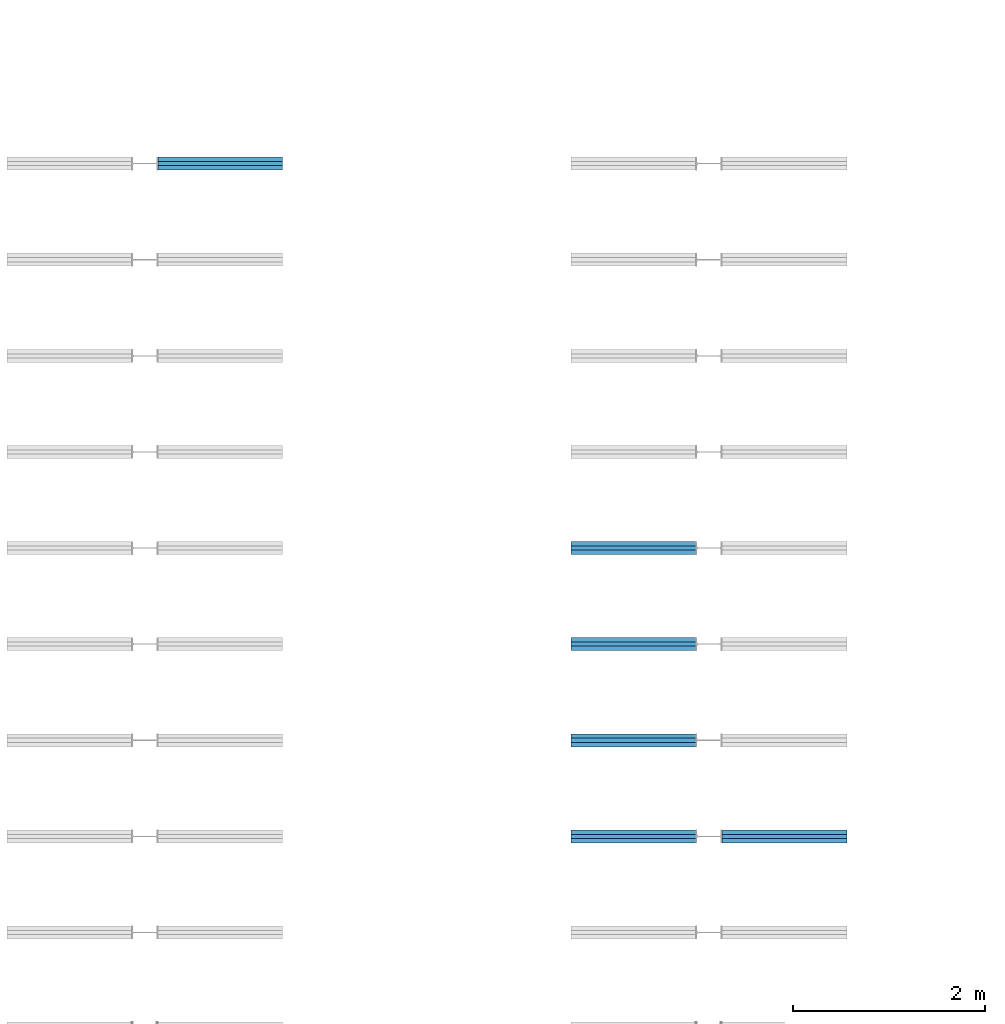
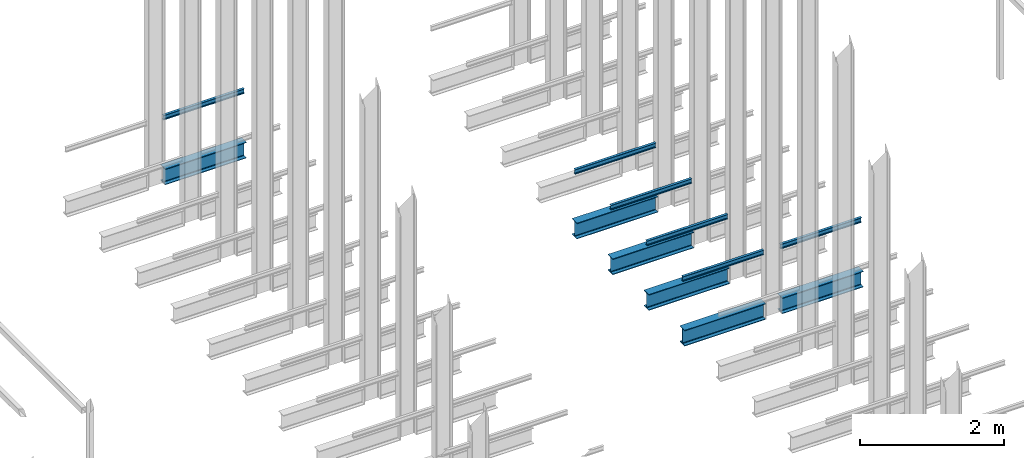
# One storey, part 183 of 302: 12 beams.
"""IFC2X3 building model written with IfcOpenShell, lengths in metres."""

from ifc_helpers import new_model, entity, si_unit, converted_unit, derived_unit, direction, frame, frame_2d, origin, place, context, subcontext, project, spatial, polyline, circle_curve, parameter, trimmed, segment, composite_curve, i_section, outline, extrude, material, type_object, element, save


model = new_model("IFC2X3")

# Units and contexts
model_context = context("Model", 3, precision=1e-05, world=origin(), true_north=direction((6.12303176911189e-17, 1.0)))
body_context = subcontext(model_context, "Body", "Model", "MODEL_VIEW")
ifc_project = project(units=[si_unit("LENGTHUNIT", "METRE"), si_unit("AREAUNIT", "SQUARE_METRE"), si_unit("VOLUMEUNIT", "CUBIC_METRE"), converted_unit("PLANEANGLEUNIT", "DEGREE", entity("IfcRatioMeasure", 0.0174532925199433), si_unit("PLANEANGLEUNIT", "RADIAN"), dimensions=[0, 0, 0, 0, 0, 0, 0]), si_unit("MASSUNIT", "GRAM", prefix="KILO"), derived_unit("MASSDENSITYUNIT", [(si_unit("MASSUNIT", "GRAM", prefix="KILO"), 1), (si_unit("LENGTHUNIT", "METRE"), -3)]), derived_unit("MOMENTOFINERTIAUNIT", [(si_unit("LENGTHUNIT", "METRE"), 4)]), si_unit("TIMEUNIT", "SECOND"), si_unit("FREQUENCYUNIT", "HERTZ"), si_unit("THERMODYNAMICTEMPERATUREUNIT", "DEGREE_CELSIUS"), derived_unit("THERMALTRANSMITTANCEUNIT", [(si_unit("MASSUNIT", "GRAM", prefix="KILO"), 1), (si_unit("THERMODYNAMICTEMPERATUREUNIT", "KELVIN"), -1), (si_unit("TIMEUNIT", "SECOND"), -3)]), derived_unit("VOLUMETRICFLOWRATEUNIT", [(si_unit("LENGTHUNIT", "METRE"), 3), (si_unit("TIMEUNIT", "SECOND"), -1)]), si_unit("ELECTRICCURRENTUNIT", "AMPERE"), si_unit("ELECTRICVOLTAGEUNIT", "VOLT"), si_unit("POWERUNIT", "WATT"), si_unit("FORCEUNIT", "NEWTON", prefix="KILO"), si_unit("ILLUMINANCEUNIT", "LUX"), si_unit("LUMINOUSFLUXUNIT", "LUMEN"), si_unit("LUMINOUSINTENSITYUNIT", "CANDELA"), derived_unit("USERDEFINED", [(si_unit("MASSUNIT", "GRAM", prefix="KILO"), -1), (si_unit("LENGTHUNIT", "METRE"), -2), (si_unit("TIMEUNIT", "SECOND"), 3), (si_unit("LUMINOUSFLUXUNIT", "LUMEN"), 1)]), derived_unit("LINEARVELOCITYUNIT", [(si_unit("LENGTHUNIT", "METRE"), 1), (si_unit("TIMEUNIT", "SECOND"), -1)]), si_unit("PRESSUREUNIT", "PASCAL"), derived_unit("USERDEFINED", [(si_unit("LENGTHUNIT", "METRE"), -2), (si_unit("MASSUNIT", "GRAM", prefix="KILO"), 1), (si_unit("TIMEUNIT", "SECOND"), -2)]), derived_unit("LINEARFORCEUNIT", [(si_unit("MASSUNIT", "GRAM", prefix="KILO"), 1), (si_unit("LENGTHUNIT", "METRE"), 1), (si_unit("TIMEUNIT", "SECOND"), -2), (si_unit("LENGTHUNIT", "METRE"), -1)]), derived_unit("PLANARFORCEUNIT", [(si_unit("MASSUNIT", "GRAM", prefix="KILO"), 1), (si_unit("LENGTHUNIT", "METRE"), 1), (si_unit("TIMEUNIT", "SECOND"), -2), (si_unit("LENGTHUNIT", "METRE"), -2)])], contexts=[model_context])

# Site, building, storey
site_placement = place(None, origin())
site = spatial("IfcSite", under=ifc_project, at=site_placement, Name="Default", CompositionType="ELEMENT")
building_placement = place(site_placement, origin())
building = spatial("IfcBuilding", under=site, at=building_placement, CompositionType="ELEMENT")
storey_placement = place(building_placement, frame((0.0, 0.0, -1.3)))
storey = spatial("IfcBuildingStorey", under=building, at=storey_placement, Name="00_EG", CompositionType="ELEMENT", Elevation=-1.3)

# Beams
ifc_material = material(Name="Metall - Baustahl S235")
beam_type_1 = type_object("IfcBeamType", Name="IPN Träger:IPN 80", PredefinedType="NOTDEFINED")
beam_1_placement = place(storey_placement, frame((-170.510111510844, 54.9945889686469, 2.42)))
element("IfcBeam", 1, at=beam_1_placement, inside=storey, type_object=beam_type_1, material=ifc_material, Name="IPN Träger:IPN 80", ObjectType="IPN Träger:IPN 80", context=body_context, shape_type="SweptSolid", body=[
    extrude(outline(composite_curve([segment(polyline([(0.0375704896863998, -0.0210000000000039), (0.0399999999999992, -0.0210000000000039)]), True, "CONTINUOUS"), segment(polyline([(0.0399999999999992, -0.0210000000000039), (0.0399999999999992, 0.0209999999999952)]), True, "CONTINUOUS"), segment(polyline([(0.039999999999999, 0.0209999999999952), (0.037570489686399, 0.0209999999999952)]), True, "CONTINUOUS"), segment(trimmed(circle_curve(frame_2d((0.0375704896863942, 0.0187000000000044), x_axis=(0.0, 1.0)), 0.0022999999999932), [parameter(0.0)], [parameter(82.0300000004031)], True, "PARAMETER"), True, "CONTINUOUS"), segment(polyline([(0.0352927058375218, 0.019018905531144), (0.0333732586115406, 0.00530924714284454)]), True, "CONTINUOUS"), segment(trimmed(circle_curve(frame_2d((0.0295109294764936, 0.00584999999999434), x_axis=(0.990340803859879, -0.138654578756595)), 0.00389999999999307), [parameter(277.969999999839)], [parameter(0.0)], True, "PARAMETER"), False, "CONTINUOUS"), segment(polyline([(0.0295109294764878, 0.00194999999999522), (-0.0295109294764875, 0.00194999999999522)]), True, "CONTINUOUS"), segment(trimmed(circle_curve(frame_2d((-0.0295109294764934, 0.00584999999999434), x_axis=(0.0, -1.0)), 0.00389999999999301), [parameter(277.969999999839)], [parameter(0.0)], True, "PARAMETER"), False, "CONTINUOUS"), segment(polyline([(-0.0333732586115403, 0.00530924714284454), (-0.0352927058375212, 0.019018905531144)]), True, "CONTINUOUS"), segment(trimmed(circle_curve(frame_2d((-0.0375704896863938, 0.0187000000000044), x_axis=(0.990340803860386, 0.138654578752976)), 0.00229999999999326), [parameter(0.0)], [parameter(82.0300000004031)], True, "PARAMETER"), True, "CONTINUOUS"), segment(polyline([(-0.0375704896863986, 0.0209999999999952), (-0.0400000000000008, 0.0209999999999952)]), True, "CONTINUOUS"), segment(polyline([(-0.0400000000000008, 0.0209999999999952), (-0.0400000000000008, -0.0210000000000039)]), True, "CONTINUOUS"), segment(polyline([(-0.0400000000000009, -0.0210000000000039), (-0.037570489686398, -0.0210000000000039)]), True, "CONTINUOUS"), segment(trimmed(circle_curve(frame_2d((-0.0375704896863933, -0.0187000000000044), x_axis=(0.0, -1.0)), 0.00229999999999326), [parameter(0.0)], [parameter(82.0300000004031)], True, "PARAMETER"), True, "CONTINUOUS"), segment(polyline([(-0.0352927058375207, -0.019018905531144), (-0.0333732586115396, -0.00530924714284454)]), True, "CONTINUOUS"), segment(trimmed(circle_curve(frame_2d((-0.0295109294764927, -0.00584999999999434), x_axis=(-0.990340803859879, 0.138654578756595)), 0.00389999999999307), [parameter(277.969999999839)], [parameter(0.0)], True, "PARAMETER"), False, "CONTINUOUS"), segment(polyline([(-0.0295109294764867, -0.00195000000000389), (0.0295109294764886, -0.00195000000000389)]), True, "CONTINUOUS"), segment(trimmed(circle_curve(frame_2d((0.0295109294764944, -0.00584999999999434), x_axis=(0.0, 1.0)), 0.00389999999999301), [parameter(277.969999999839)], [parameter(0.0)], True, "PARAMETER"), False, "CONTINUOUS"), segment(polyline([(0.0333732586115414, -0.00530924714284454), (0.0352927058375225, -0.019018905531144)]), True, "CONTINUOUS"), segment(trimmed(circle_curve(frame_2d((0.0375704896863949, -0.0187000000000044), x_axis=(-0.990340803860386, -0.138654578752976)), 0.00229999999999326), [parameter(0.0)], [parameter(82.0300000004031)], True, "PARAMETER"), True, "CONTINUOUS")], self_intersect=False)), frame((0.000100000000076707, 0.0209999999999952, -0.0400000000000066), z_axis=(1.0, 0.0, 0.0), x_axis=(0.0, 0.0, -1.0)), (0.0, 0.0, 1.0), 1.29990000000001),
])
beam_2_placement = place(storey_placement, frame((-164.910111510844, 51.0365889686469, 2.42), z_axis=(0.0, 0.0, 1.0), x_axis=(-1.0, 0.0, 0.0)))
element("IfcBeam", 2, at=beam_2_placement, inside=storey, type_object=beam_type_1, material=ifc_material, Name="IPN Träger:IPN 80", ObjectType="IPN Träger:IPN 80", context=body_context, shape_type="SweptSolid", body=[
    extrude(outline(composite_curve([segment(polyline([(0.0375704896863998, -0.0209999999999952), (0.0399999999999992, -0.0209999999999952)]), True, "CONTINUOUS"), segment(polyline([(0.0399999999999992, -0.0209999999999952), (0.0399999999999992, 0.0210000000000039)]), True, "CONTINUOUS"), segment(polyline([(0.039999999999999, 0.0210000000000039), (0.037570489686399, 0.0210000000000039)]), True, "CONTINUOUS"), segment(trimmed(circle_curve(frame_2d((0.0375704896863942, 0.0187000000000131), x_axis=(0.0, 1.0)), 0.0022999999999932), [parameter(0.0)], [parameter(82.0300000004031)], True, "PARAMETER"), True, "CONTINUOUS"), segment(polyline([(0.0352927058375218, 0.0190189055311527), (0.0333732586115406, 0.0053092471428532)]), True, "CONTINUOUS"), segment(trimmed(circle_curve(frame_2d((0.0295109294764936, 0.005850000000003), x_axis=(0.990340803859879, -0.138654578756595)), 0.00389999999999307), [parameter(277.969999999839)], [parameter(0.0)], True, "PARAMETER"), False, "CONTINUOUS"), segment(polyline([(0.0295109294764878, 0.00195000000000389), (-0.0295109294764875, 0.00195000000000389)]), True, "CONTINUOUS"), segment(trimmed(circle_curve(frame_2d((-0.0295109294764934, 0.005850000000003), x_axis=(0.0, -1.0)), 0.00389999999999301), [parameter(277.969999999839)], [parameter(0.0)], True, "PARAMETER"), False, "CONTINUOUS"), segment(polyline([(-0.0333732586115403, 0.0053092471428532), (-0.0352927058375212, 0.0190189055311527)]), True, "CONTINUOUS"), segment(trimmed(circle_curve(frame_2d((-0.0375704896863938, 0.0187000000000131), x_axis=(0.990340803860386, 0.138654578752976)), 0.00229999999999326), [parameter(0.0)], [parameter(82.0300000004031)], True, "PARAMETER"), True, "CONTINUOUS"), segment(polyline([(-0.0375704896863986, 0.0210000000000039), (-0.0400000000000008, 0.0210000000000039)]), True, "CONTINUOUS"), segment(polyline([(-0.0400000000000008, 0.0210000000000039), (-0.0400000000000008, -0.0209999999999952)]), True, "CONTINUOUS"), segment(polyline([(-0.0400000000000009, -0.0209999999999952), (-0.037570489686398, -0.0209999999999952)]), True, "CONTINUOUS"), segment(trimmed(circle_curve(frame_2d((-0.0375704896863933, -0.0186999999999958), x_axis=(0.0, -1.0)), 0.00229999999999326), [parameter(0.0)], [parameter(82.0300000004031)], True, "PARAMETER"), True, "CONTINUOUS"), segment(polyline([(-0.0352927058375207, -0.0190189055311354), (-0.0333732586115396, -0.00530924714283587)]), True, "CONTINUOUS"), segment(trimmed(circle_curve(frame_2d((-0.0295109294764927, -0.00584999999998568), x_axis=(-0.990340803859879, 0.138654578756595)), 0.00389999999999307), [parameter(277.969999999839)], [parameter(0.0)], True, "PARAMETER"), False, "CONTINUOUS"), segment(polyline([(-0.0295109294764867, -0.00194999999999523), (0.0295109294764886, -0.00194999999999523)]), True, "CONTINUOUS"), segment(trimmed(circle_curve(frame_2d((0.0295109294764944, -0.00584999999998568), x_axis=(0.0, 1.0)), 0.00389999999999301), [parameter(277.969999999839)], [parameter(0.0)], True, "PARAMETER"), False, "CONTINUOUS"), segment(polyline([(0.0333732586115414, -0.00530924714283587), (0.0352927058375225, -0.0190189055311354)]), True, "CONTINUOUS"), segment(trimmed(circle_curve(frame_2d((0.0375704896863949, -0.0186999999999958), x_axis=(-0.990340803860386, -0.138654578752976)), 0.00229999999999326), [parameter(0.0)], [parameter(82.0300000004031)], True, "PARAMETER"), True, "CONTINUOUS")], self_intersect=False)), frame((0.000100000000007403, 0.0209999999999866, -0.0400000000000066), z_axis=(1.0, 0.0, 0.0), x_axis=(0.0, 0.0, -1.0)), (0.0, 0.0, 1.0), 1.29990000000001),
])
beam_3_placement = place(storey_placement, frame((-164.910111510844, 50.0365889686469, 2.42), z_axis=(0.0, 0.0, 1.0), x_axis=(-1.0, 0.0, 0.0)))
element("IfcBeam", 3, at=beam_3_placement, inside=storey, type_object=beam_type_1, material=ifc_material, Name="IPN Träger:IPN 80", ObjectType="IPN Träger:IPN 80", context=body_context, shape_type="SweptSolid", body=[
    extrude(outline(composite_curve([segment(polyline([(0.0375704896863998, -0.0209999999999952), (0.0399999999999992, -0.0209999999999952)]), True, "CONTINUOUS"), segment(polyline([(0.0399999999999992, -0.0209999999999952), (0.0399999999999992, 0.0210000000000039)]), True, "CONTINUOUS"), segment(polyline([(0.039999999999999, 0.0210000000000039), (0.037570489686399, 0.0210000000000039)]), True, "CONTINUOUS"), segment(trimmed(circle_curve(frame_2d((0.0375704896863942, 0.0187000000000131), x_axis=(0.0, 1.0)), 0.0022999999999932), [parameter(0.0)], [parameter(82.0300000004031)], True, "PARAMETER"), True, "CONTINUOUS"), segment(polyline([(0.0352927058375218, 0.0190189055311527), (0.0333732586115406, 0.0053092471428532)]), True, "CONTINUOUS"), segment(trimmed(circle_curve(frame_2d((0.0295109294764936, 0.005850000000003), x_axis=(0.990340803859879, -0.138654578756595)), 0.00389999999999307), [parameter(277.969999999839)], [parameter(0.0)], True, "PARAMETER"), False, "CONTINUOUS"), segment(polyline([(0.0295109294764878, 0.00195000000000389), (-0.0295109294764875, 0.00195000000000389)]), True, "CONTINUOUS"), segment(trimmed(circle_curve(frame_2d((-0.0295109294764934, 0.005850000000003), x_axis=(0.0, -1.0)), 0.00389999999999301), [parameter(277.969999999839)], [parameter(0.0)], True, "PARAMETER"), False, "CONTINUOUS"), segment(polyline([(-0.0333732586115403, 0.0053092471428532), (-0.0352927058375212, 0.0190189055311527)]), True, "CONTINUOUS"), segment(trimmed(circle_curve(frame_2d((-0.0375704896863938, 0.0187000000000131), x_axis=(0.990340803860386, 0.138654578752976)), 0.00229999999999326), [parameter(0.0)], [parameter(82.0300000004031)], True, "PARAMETER"), True, "CONTINUOUS"), segment(polyline([(-0.0375704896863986, 0.0210000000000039), (-0.0400000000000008, 0.0210000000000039)]), True, "CONTINUOUS"), segment(polyline([(-0.0400000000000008, 0.0210000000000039), (-0.0400000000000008, -0.0209999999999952)]), True, "CONTINUOUS"), segment(polyline([(-0.0400000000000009, -0.0209999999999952), (-0.037570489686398, -0.0209999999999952)]), True, "CONTINUOUS"), segment(trimmed(circle_curve(frame_2d((-0.0375704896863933, -0.0186999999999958), x_axis=(0.0, -1.0)), 0.00229999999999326), [parameter(0.0)], [parameter(82.0300000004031)], True, "PARAMETER"), True, "CONTINUOUS"), segment(polyline([(-0.0352927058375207, -0.0190189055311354), (-0.0333732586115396, -0.00530924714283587)]), True, "CONTINUOUS"), segment(trimmed(circle_curve(frame_2d((-0.0295109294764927, -0.00584999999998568), x_axis=(-0.990340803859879, 0.138654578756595)), 0.00389999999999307), [parameter(277.969999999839)], [parameter(0.0)], True, "PARAMETER"), False, "CONTINUOUS"), segment(polyline([(-0.0295109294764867, -0.00194999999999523), (0.0295109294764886, -0.00194999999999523)]), True, "CONTINUOUS"), segment(trimmed(circle_curve(frame_2d((0.0295109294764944, -0.00584999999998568), x_axis=(0.0, 1.0)), 0.00389999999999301), [parameter(277.969999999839)], [parameter(0.0)], True, "PARAMETER"), False, "CONTINUOUS"), segment(polyline([(0.0333732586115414, -0.00530924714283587), (0.0352927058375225, -0.0190189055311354)]), True, "CONTINUOUS"), segment(trimmed(circle_curve(frame_2d((0.0375704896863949, -0.0186999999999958), x_axis=(-0.990340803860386, -0.138654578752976)), 0.00229999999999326), [parameter(0.0)], [parameter(82.0300000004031)], True, "PARAMETER"), True, "CONTINUOUS")], self_intersect=False)), frame((0.000100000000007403, 0.0209999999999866, -0.0400000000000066), z_axis=(1.0, 0.0, 0.0), x_axis=(0.0, 0.0, -1.0)), (0.0, 0.0, 1.0), 1.29990000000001),
])
beam_4_placement = place(storey_placement, frame((-164.910111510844, 49.0365889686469, 2.42), z_axis=(0.0, 0.0, 1.0), x_axis=(-1.0, 0.0, 0.0)))
element("IfcBeam", 4, at=beam_4_placement, inside=storey, type_object=beam_type_1, material=ifc_material, Name="IPN Träger:IPN 80", ObjectType="IPN Träger:IPN 80", context=body_context, shape_type="SweptSolid", body=[
    extrude(outline(composite_curve([segment(polyline([(0.0375704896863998, -0.0210000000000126), (0.0399999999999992, -0.0210000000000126)]), True, "CONTINUOUS"), segment(polyline([(0.0399999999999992, -0.0210000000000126), (0.0399999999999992, 0.0209999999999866)]), True, "CONTINUOUS"), segment(polyline([(0.039999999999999, 0.0209999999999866), (0.037570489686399, 0.0209999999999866)]), True, "CONTINUOUS"), segment(trimmed(circle_curve(frame_2d((0.0375704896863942, 0.0186999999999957), x_axis=(0.0, 1.0)), 0.0022999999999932), [parameter(0.0)], [parameter(82.0300000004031)], True, "PARAMETER"), True, "CONTINUOUS"), segment(polyline([(0.0352927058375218, 0.0190189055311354), (0.0333732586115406, 0.00530924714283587)]), True, "CONTINUOUS"), segment(trimmed(circle_curve(frame_2d((0.0295109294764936, 0.00584999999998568), x_axis=(0.990340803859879, -0.138654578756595)), 0.00389999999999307), [parameter(277.969999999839)], [parameter(0.0)], True, "PARAMETER"), False, "CONTINUOUS"), segment(polyline([(0.0295109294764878, 0.00194999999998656), (-0.0295109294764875, 0.00194999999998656)]), True, "CONTINUOUS"), segment(trimmed(circle_curve(frame_2d((-0.0295109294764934, 0.00584999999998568), x_axis=(0.0, -1.0)), 0.00389999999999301), [parameter(277.969999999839)], [parameter(0.0)], True, "PARAMETER"), False, "CONTINUOUS"), segment(polyline([(-0.0333732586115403, 0.00530924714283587), (-0.0352927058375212, 0.0190189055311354)]), True, "CONTINUOUS"), segment(trimmed(circle_curve(frame_2d((-0.0375704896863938, 0.0186999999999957), x_axis=(0.990340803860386, 0.138654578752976)), 0.00229999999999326), [parameter(0.0)], [parameter(82.0300000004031)], True, "PARAMETER"), True, "CONTINUOUS"), segment(polyline([(-0.0375704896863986, 0.0209999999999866), (-0.0400000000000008, 0.0209999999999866)]), True, "CONTINUOUS"), segment(polyline([(-0.0400000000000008, 0.0209999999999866), (-0.0400000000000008, -0.0210000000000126)]), True, "CONTINUOUS"), segment(polyline([(-0.0400000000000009, -0.0210000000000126), (-0.037570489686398, -0.0210000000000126)]), True, "CONTINUOUS"), segment(trimmed(circle_curve(frame_2d((-0.0375704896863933, -0.0187000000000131), x_axis=(0.0, -1.0)), 0.00229999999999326), [parameter(0.0)], [parameter(82.0300000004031)], True, "PARAMETER"), True, "CONTINUOUS"), segment(polyline([(-0.0352927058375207, -0.0190189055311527), (-0.0333732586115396, -0.0053092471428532)]), True, "CONTINUOUS"), segment(trimmed(circle_curve(frame_2d((-0.0295109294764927, -0.005850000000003), x_axis=(-0.990340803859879, 0.138654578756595)), 0.00389999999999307), [parameter(277.969999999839)], [parameter(0.0)], True, "PARAMETER"), False, "CONTINUOUS"), segment(polyline([(-0.0295109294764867, -0.00195000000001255), (0.0295109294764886, -0.00195000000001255)]), True, "CONTINUOUS"), segment(trimmed(circle_curve(frame_2d((0.0295109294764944, -0.005850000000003), x_axis=(0.0, 1.0)), 0.00389999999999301), [parameter(277.969999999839)], [parameter(0.0)], True, "PARAMETER"), False, "CONTINUOUS"), segment(polyline([(0.0333732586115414, -0.0053092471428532), (0.0352927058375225, -0.0190189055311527)]), True, "CONTINUOUS"), segment(trimmed(circle_curve(frame_2d((0.0375704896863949, -0.0187000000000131), x_axis=(-0.990340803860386, -0.138654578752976)), 0.00229999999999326), [parameter(0.0)], [parameter(82.0300000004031)], True, "PARAMETER"), True, "CONTINUOUS")], self_intersect=False)), frame((0.000100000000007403, 0.0210000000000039, -0.0400000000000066), z_axis=(1.0, 0.0, 0.0), x_axis=(0.0, 0.0, -1.0)), (0.0, 0.0, 1.0), 1.29990000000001),
])
beam_5_placement = place(storey_placement, frame((-164.640111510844, 47.9945889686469, 2.42)))
element("IfcBeam", 5, at=beam_5_placement, inside=storey, type_object=beam_type_1, material=ifc_material, Name="IPN Träger:IPN 80", ObjectType="IPN Träger:IPN 80", context=body_context, shape_type="SweptSolid", body=[
    extrude(outline(composite_curve([segment(polyline([(0.0375704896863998, -0.0209999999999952), (0.0399999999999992, -0.0209999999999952)]), True, "CONTINUOUS"), segment(polyline([(0.0399999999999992, -0.0209999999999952), (0.0399999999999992, 0.0210000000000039)]), True, "CONTINUOUS"), segment(polyline([(0.039999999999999, 0.0210000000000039), (0.037570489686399, 0.0210000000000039)]), True, "CONTINUOUS"), segment(trimmed(circle_curve(frame_2d((0.0375704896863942, 0.0187000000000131), x_axis=(0.0, 1.0)), 0.0022999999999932), [parameter(0.0)], [parameter(82.0300000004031)], True, "PARAMETER"), True, "CONTINUOUS"), segment(polyline([(0.0352927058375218, 0.0190189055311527), (0.0333732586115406, 0.0053092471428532)]), True, "CONTINUOUS"), segment(trimmed(circle_curve(frame_2d((0.0295109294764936, 0.005850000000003), x_axis=(0.990340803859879, -0.138654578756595)), 0.00389999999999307), [parameter(277.969999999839)], [parameter(0.0)], True, "PARAMETER"), False, "CONTINUOUS"), segment(polyline([(0.0295109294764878, 0.00195000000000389), (-0.0295109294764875, 0.00195000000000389)]), True, "CONTINUOUS"), segment(trimmed(circle_curve(frame_2d((-0.0295109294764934, 0.005850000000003), x_axis=(0.0, -1.0)), 0.00389999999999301), [parameter(277.969999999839)], [parameter(0.0)], True, "PARAMETER"), False, "CONTINUOUS"), segment(polyline([(-0.0333732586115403, 0.0053092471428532), (-0.0352927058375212, 0.0190189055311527)]), True, "CONTINUOUS"), segment(trimmed(circle_curve(frame_2d((-0.0375704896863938, 0.0187000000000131), x_axis=(0.990340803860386, 0.138654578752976)), 0.00229999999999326), [parameter(0.0)], [parameter(82.0300000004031)], True, "PARAMETER"), True, "CONTINUOUS"), segment(polyline([(-0.0375704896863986, 0.0210000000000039), (-0.0400000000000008, 0.0210000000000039)]), True, "CONTINUOUS"), segment(polyline([(-0.0400000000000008, 0.0210000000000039), (-0.0400000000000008, -0.0209999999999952)]), True, "CONTINUOUS"), segment(polyline([(-0.0400000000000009, -0.0209999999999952), (-0.037570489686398, -0.0209999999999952)]), True, "CONTINUOUS"), segment(trimmed(circle_curve(frame_2d((-0.0375704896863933, -0.0186999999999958), x_axis=(0.0, -1.0)), 0.00229999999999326), [parameter(0.0)], [parameter(82.0300000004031)], True, "PARAMETER"), True, "CONTINUOUS"), segment(polyline([(-0.0352927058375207, -0.0190189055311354), (-0.0333732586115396, -0.00530924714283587)]), True, "CONTINUOUS"), segment(trimmed(circle_curve(frame_2d((-0.0295109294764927, -0.00584999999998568), x_axis=(-0.990340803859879, 0.138654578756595)), 0.00389999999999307), [parameter(277.969999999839)], [parameter(0.0)], True, "PARAMETER"), False, "CONTINUOUS"), segment(polyline([(-0.0295109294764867, -0.00194999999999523), (0.0295109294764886, -0.00194999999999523)]), True, "CONTINUOUS"), segment(trimmed(circle_curve(frame_2d((0.0295109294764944, -0.00584999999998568), x_axis=(0.0, 1.0)), 0.00389999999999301), [parameter(277.969999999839)], [parameter(0.0)], True, "PARAMETER"), False, "CONTINUOUS"), segment(polyline([(0.0333732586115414, -0.00530924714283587), (0.0352927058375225, -0.0190189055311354)]), True, "CONTINUOUS"), segment(trimmed(circle_curve(frame_2d((0.0375704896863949, -0.0186999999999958), x_axis=(-0.990340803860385, -0.138654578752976)), 0.00229999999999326), [parameter(0.0)], [parameter(82.0300000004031)], True, "PARAMETER"), True, "CONTINUOUS")], self_intersect=False)), frame((9.99999999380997e-05, 0.0209999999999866, -0.0400000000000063), z_axis=(1.0, 0.0, 0.0), x_axis=(0.0, 0.0, -1.0)), (0.0, 0.0, 1.0), 1.29990000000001),
])
beam_6_placement = place(storey_placement, frame((-164.910111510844, 48.0365889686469, 2.42), z_axis=(0.0, 0.0, 1.0), x_axis=(-1.0, 0.0, 0.0)))
element("IfcBeam", 6, at=beam_6_placement, inside=storey, type_object=beam_type_1, material=ifc_material, Name="IPN Träger:IPN 80", ObjectType="IPN Träger:IPN 80", context=body_context, shape_type="SweptSolid", body=[
    extrude(outline(composite_curve([segment(polyline([(0.0375704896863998, -0.0210000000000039), (0.0399999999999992, -0.0210000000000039)]), True, "CONTINUOUS"), segment(polyline([(0.0399999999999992, -0.0210000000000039), (0.0399999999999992, 0.0209999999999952)]), True, "CONTINUOUS"), segment(polyline([(0.039999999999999, 0.0209999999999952), (0.037570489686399, 0.0209999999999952)]), True, "CONTINUOUS"), segment(trimmed(circle_curve(frame_2d((0.0375704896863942, 0.0187000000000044), x_axis=(0.0, 1.0)), 0.0022999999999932), [parameter(0.0)], [parameter(82.0300000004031)], True, "PARAMETER"), True, "CONTINUOUS"), segment(polyline([(0.0352927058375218, 0.019018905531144), (0.0333732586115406, 0.00530924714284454)]), True, "CONTINUOUS"), segment(trimmed(circle_curve(frame_2d((0.0295109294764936, 0.00584999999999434), x_axis=(0.990340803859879, -0.138654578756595)), 0.00389999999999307), [parameter(277.969999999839)], [parameter(0.0)], True, "PARAMETER"), False, "CONTINUOUS"), segment(polyline([(0.0295109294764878, 0.00194999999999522), (-0.0295109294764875, 0.00194999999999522)]), True, "CONTINUOUS"), segment(trimmed(circle_curve(frame_2d((-0.0295109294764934, 0.00584999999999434), x_axis=(0.0, -1.0)), 0.00389999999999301), [parameter(277.969999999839)], [parameter(0.0)], True, "PARAMETER"), False, "CONTINUOUS"), segment(polyline([(-0.0333732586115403, 0.00530924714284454), (-0.0352927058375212, 0.019018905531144)]), True, "CONTINUOUS"), segment(trimmed(circle_curve(frame_2d((-0.0375704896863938, 0.0187000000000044), x_axis=(0.990340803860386, 0.138654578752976)), 0.00229999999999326), [parameter(0.0)], [parameter(82.0300000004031)], True, "PARAMETER"), True, "CONTINUOUS"), segment(polyline([(-0.0375704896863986, 0.0209999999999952), (-0.0400000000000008, 0.0209999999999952)]), True, "CONTINUOUS"), segment(polyline([(-0.0400000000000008, 0.0209999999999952), (-0.0400000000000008, -0.0210000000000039)]), True, "CONTINUOUS"), segment(polyline([(-0.0400000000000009, -0.0210000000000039), (-0.037570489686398, -0.0210000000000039)]), True, "CONTINUOUS"), segment(trimmed(circle_curve(frame_2d((-0.0375704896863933, -0.0187000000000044), x_axis=(0.0, -1.0)), 0.00229999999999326), [parameter(0.0)], [parameter(82.0300000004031)], True, "PARAMETER"), True, "CONTINUOUS"), segment(polyline([(-0.0352927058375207, -0.019018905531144), (-0.0333732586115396, -0.00530924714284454)]), True, "CONTINUOUS"), segment(trimmed(circle_curve(frame_2d((-0.0295109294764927, -0.00584999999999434), x_axis=(-0.990340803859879, 0.138654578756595)), 0.00389999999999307), [parameter(277.969999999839)], [parameter(0.0)], True, "PARAMETER"), False, "CONTINUOUS"), segment(polyline([(-0.0295109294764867, -0.00195000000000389), (0.0295109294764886, -0.00195000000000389)]), True, "CONTINUOUS"), segment(trimmed(circle_curve(frame_2d((0.0295109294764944, -0.00584999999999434), x_axis=(0.0, 1.0)), 0.00389999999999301), [parameter(277.969999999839)], [parameter(0.0)], True, "PARAMETER"), False, "CONTINUOUS"), segment(polyline([(0.0333732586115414, -0.00530924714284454), (0.0352927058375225, -0.019018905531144)]), True, "CONTINUOUS"), segment(trimmed(circle_curve(frame_2d((0.0375704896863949, -0.0187000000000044), x_axis=(-0.990340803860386, -0.138654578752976)), 0.00229999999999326), [parameter(0.0)], [parameter(82.0300000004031)], True, "PARAMETER"), True, "CONTINUOUS")], self_intersect=False)), frame((0.000100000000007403, 0.0209999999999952, -0.0400000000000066), z_axis=(1.0, 0.0, 0.0), x_axis=(0.0, 0.0, -1.0)), (0.0, 0.0, 1.0), 1.29990000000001),
])
beam_type_2 = type_object("IfcBeamType", Name="IPE Träger:IPE 270", PredefinedType="NOTDEFINED")
beam_7_placement = place(storey_placement, frame((-170.510111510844, 55.0830889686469, 1.54000000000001)))
element("IfcBeam", 7, at=beam_7_placement, inside=storey, type_object=beam_type_2, material=ifc_material, Name="IPE Träger:IPE 270", ObjectType="IPE Träger:IPE 270", context=body_context, shape_type="SweptSolid", body=[
    extrude(i_section(OverallWidth=0.134999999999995, OverallDepth=0.27, WebThickness=0.0065999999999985, FlangeThickness=0.0102000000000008, FilletRadius=0.0149999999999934, at=frame_2d((5.96744875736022e-16, -8.66667848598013e-15), x_axis=(0.0, 1.0))), frame((0.000100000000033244, -0.0674999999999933, -0.135000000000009), z_axis=(1.0, 0.0, 0.0), x_axis=(0.0, 0.0, -1.0)), (0.0, 0.0, 1.0), 1.29990000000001),
])
beam_8_placement = place(storey_placement, frame((-164.910111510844, 48.0830889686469, 1.54000000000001), z_axis=(0.0, 0.0, 1.0), x_axis=(-1.0, 0.0, 0.0)))
element("IfcBeam", 8, at=beam_8_placement, inside=storey, type_object=beam_type_2, material=ifc_material, Name="IPE Träger:IPE 270", ObjectType="IPE Träger:IPE 270", context=body_context, shape_type="SweptSolid", body=[
    extrude(i_section(OverallWidth=0.134999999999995, OverallDepth=0.27, WebThickness=0.0065999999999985, FlangeThickness=0.0102000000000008, FilletRadius=0.0149999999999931, at=frame_2d((5.96744875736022e-16, -8.66667848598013e-15), x_axis=(0.0, 1.0))), frame((0.000100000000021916, 0.0675000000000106, -0.135000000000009), z_axis=(1.0, 0.0, 0.0), x_axis=(0.0, 0.0, -1.0)), (0.0, 0.0, 1.0), 1.29990000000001),
])
beam_9_placement = place(storey_placement, frame((-164.640111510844, 48.0830889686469, 1.54000000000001)))
element("IfcBeam", 9, at=beam_9_placement, inside=storey, type_object=beam_type_2, material=ifc_material, Name="IPE Träger:IPE 270", ObjectType="IPE Träger:IPE 270", context=body_context, shape_type="SweptSolid", body=[
    extrude(i_section(OverallWidth=0.134999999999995, OverallDepth=0.27, WebThickness=0.0065999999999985, FlangeThickness=0.0102000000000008, FilletRadius=0.0149999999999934, at=frame_2d((5.96744875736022e-16, -8.66667848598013e-15), x_axis=(0.0, 1.0))), frame((9.99999999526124e-05, -0.0674999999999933, -0.135000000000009), z_axis=(1.0, 0.0, 0.0), x_axis=(0.0, 0.0, -1.0)), (0.0, 0.0, 1.0), 1.29990000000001),
])
beam_10_placement = place(storey_placement, frame((-164.910111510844, 49.0830889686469, 1.54000000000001), z_axis=(0.0, 0.0, 1.0), x_axis=(-1.0, 0.0, 0.0)))
element("IfcBeam", 10, at=beam_10_placement, inside=storey, type_object=beam_type_2, material=ifc_material, Name="IPE Träger:IPE 270", ObjectType="IPE Träger:IPE 270", context=body_context, shape_type="SweptSolid", body=[
    extrude(i_section(OverallWidth=0.134999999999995, OverallDepth=0.27, WebThickness=0.0065999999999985, FlangeThickness=0.0102000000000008, FilletRadius=0.0149999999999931, at=frame_2d((5.96744875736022e-16, 0.0), x_axis=(0.0, 1.0))), frame((0.000100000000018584, 0.067500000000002, -0.135000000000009), z_axis=(1.0, 0.0, 0.0), x_axis=(0.0, 0.0, -1.0)), (0.0, 0.0, 1.0), 1.29990000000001),
])
beam_11_placement = place(storey_placement, frame((-164.910111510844, 50.0830889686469, 1.54000000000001), z_axis=(0.0, 0.0, 1.0), x_axis=(-1.0, 0.0, 0.0)))
element("IfcBeam", 11, at=beam_11_placement, inside=storey, type_object=beam_type_2, material=ifc_material, Name="IPE Träger:IPE 270", ObjectType="IPE Träger:IPE 270", context=body_context, shape_type="SweptSolid", body=[
    extrude(i_section(OverallWidth=0.134999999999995, OverallDepth=0.27, WebThickness=0.0065999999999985, FlangeThickness=0.0102000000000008, FilletRadius=0.0149999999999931, at=frame_2d((5.96744875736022e-16, 8.66667848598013e-15), x_axis=(0.0, 1.0))), frame((0.000100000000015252, 0.0674999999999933, -0.135000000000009), z_axis=(1.0, 0.0, 0.0), x_axis=(0.0, 0.0, -1.0)), (0.0, 0.0, 1.0), 1.29990000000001),
])
beam_12_placement = place(storey_placement, frame((-164.910111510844, 51.0830889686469, 1.54000000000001), z_axis=(0.0, 0.0, 1.0), x_axis=(-1.0, 0.0, 0.0)))
element("IfcBeam", 12, at=beam_12_placement, inside=storey, type_object=beam_type_2, material=ifc_material, Name="IPE Träger:IPE 270", ObjectType="IPE Träger:IPE 270", context=body_context, shape_type="SweptSolid", body=[
    extrude(i_section(OverallWidth=0.134999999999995, OverallDepth=0.27, WebThickness=0.0065999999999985, FlangeThickness=0.0102000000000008, FilletRadius=0.0149999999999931, at=frame_2d((5.96744875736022e-16, 0.0), x_axis=(0.0, 1.0))), frame((0.00010000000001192, 0.067500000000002, -0.135000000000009), z_axis=(1.0, 0.0, 0.0), x_axis=(0.0, 0.0, -1.0)), (0.0, 0.0, 1.0), 1.29990000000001),
])

save(model, "model.ifc")
